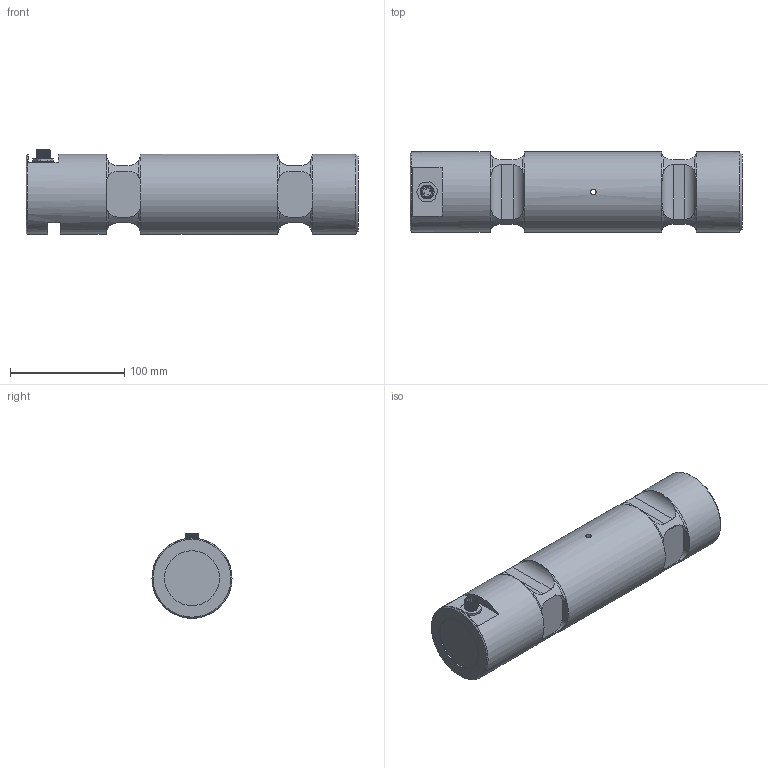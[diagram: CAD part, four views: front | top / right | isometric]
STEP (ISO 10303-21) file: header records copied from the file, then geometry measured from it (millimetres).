
FILE_DESCRIPTION(/* description */ ('Alibre Inc.'),/* implementation_level */ '2;1');
FILE_NAME(/* name */ 'export0',/* time_stamp */ '2015-08-13T12:53:25+02:00',/* author */ (''),/* organization */ (''),/* preprocessor_version */ 'ST-DEVELOPER v14',/* originating_system */ 'Alibre',/* authorisation */ '');
FILE_SCHEMA (('CONFIG_CONTROL_DESIGN'));
Length unit declared in the file: centimetre
Products named in the file (6): ID_1; ID_2; ID_3; ID_4
Bounding box: 290 x 70 x 73.82 mm (x, y, z)
Volume: 1032418 mm3; surface area: 83635.7 mm2
Topology: 8 solids, 8 shells, 198 faces, 462 edges, 285 vertices
Faces by surface type: cylinder 75, plane 75, bspline 23, torus 17, cone 8
Full cylindrical faces by diameter (mm): 0.5 x8, 5 x2, 8 x3, 10 x4, 11.5 x1, 11.8 x1, 13 x1, 14.376 x1, 48 x1, 70 x3
Entity records: 19025 total; most frequent: CARTESIAN_POINT 14865, ORIENTED_EDGE 822, DIRECTION 513, EDGE_CURVE 406, VERTEX_POINT 268, FACE_BOUND 253, EDGE_LOOP 251, AXIS2_PLACEMENT_3D 227
